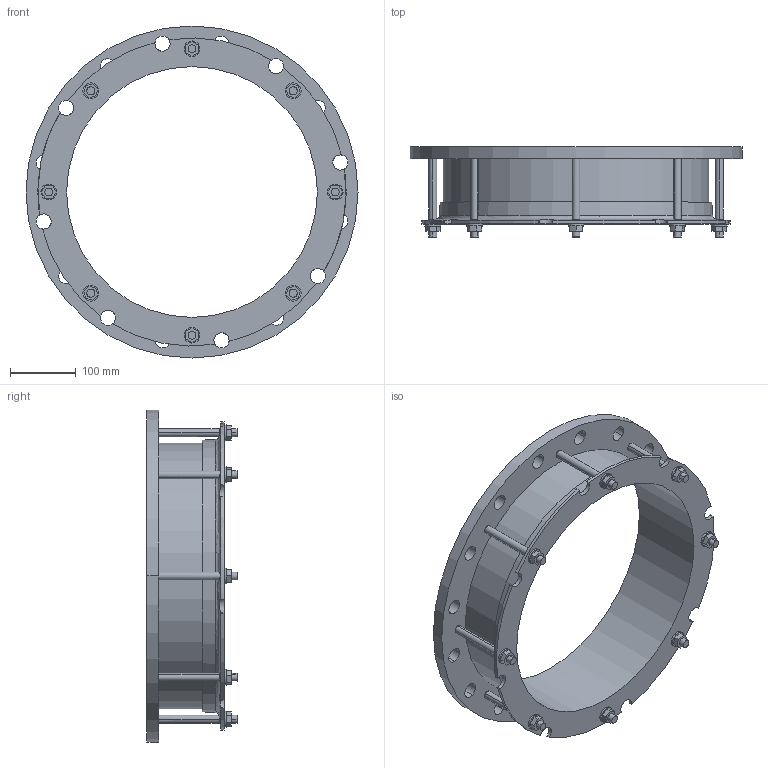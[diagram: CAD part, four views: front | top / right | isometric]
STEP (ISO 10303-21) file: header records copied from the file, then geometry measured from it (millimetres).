
FILE_DESCRIPTION((''),'2;1');
FILE_NAME('378X350PN10_8NOT','2019-01-16T',('mfairey'),('Glynwed Pipe Systems'),'CREO PARAMETRIC BY PTC INC, 2016130','CREO PARAMETRIC BY PTC INC, 2016130','');
FILE_SCHEMA(('CONFIG_CONTROL_DESIGN'));
Length unit declared in the file: millimetre
Products named in the file (1): 378X350PN10_8NOT
Bounding box: 505 x 137.45 x 505 mm (x, y, z)
Volume: 3382878.9 mm3; surface area: 589122.8 mm2
Topology: 1 solids, 1 shells, 184 faces, 490 edges, 326 vertices
Faces by surface type: cylinder 102, plane 76, cone 4, torus 2
Entity records: 6619 total; most frequent: CARTESIAN_POINT 1775, DIRECTION 1010, ORIENTED_EDGE 980, EDGE_CURVE 490, AXIS2_PLACEMENT_3D 380, VERTEX_POINT 326, EDGE_LOOP 252, VECTOR 250
